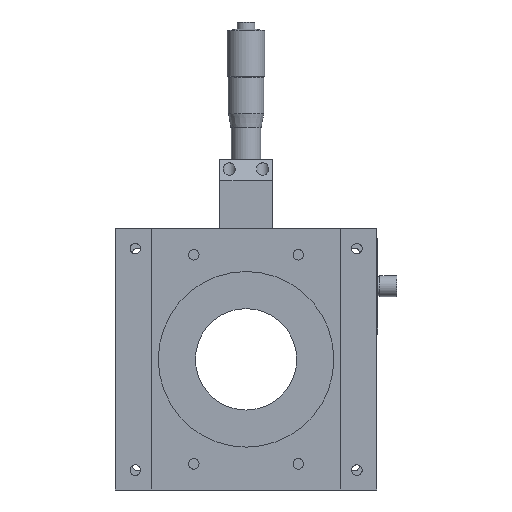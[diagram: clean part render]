
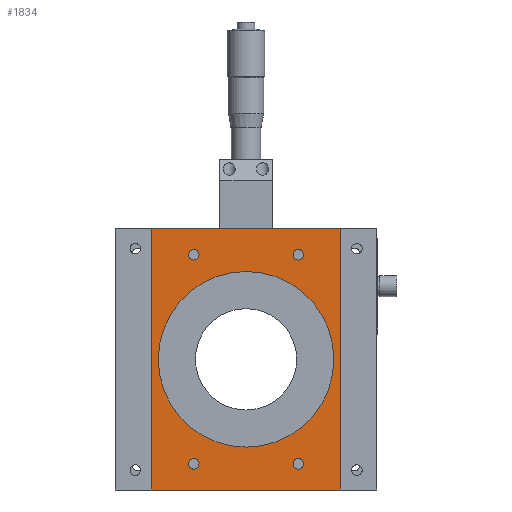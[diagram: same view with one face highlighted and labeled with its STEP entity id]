
A CAD part, front view. The second image highlights one B-rep face of the part: STEP entity #1834.
In plain terms, the highlighted planar face has unit normal (0, -1, 0).
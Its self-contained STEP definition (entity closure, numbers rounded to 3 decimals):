
#23 = FACE_BOUND ( 'NONE', #1678, .T. ) ;
#252 = EDGE_CURVE ( 'NONE', #449, #449, #3304, .T. ) ;
#274 = CARTESIAN_POINT ( 'NONE',  ( -25., 0.5, 52.5 ) ) ;
#449 = VERTEX_POINT ( 'NONE', #274 ) ;
#469 = DIRECTION ( 'NONE',  ( 0., 0., 1. ) ) ;
#482 = CARTESIAN_POINT ( 'NONE',  ( 45., 0.5, -62.5 ) ) ;
#489 = DIRECTION ( 'NONE',  ( 0., -1., 0. ) ) ;
#662 = CARTESIAN_POINT ( 'NONE',  ( -45., 0.5, -62.5 ) ) ;
#716 = LINE ( 'NONE', #6433, #1905 ) ;
#728 = EDGE_LOOP ( 'NONE', ( #6282 ) ) ;
#827 = CARTESIAN_POINT ( 'NONE',  ( 25., 0.5, -47.5 ) ) ;
#837 = DIRECTION ( 'NONE',  ( 0., -1., 0. ) ) ;
#850 = VERTEX_POINT ( 'NONE', #2334 ) ;
#989 = LINE ( 'NONE', #4214, #3529 ) ;
#997 = ORIENTED_EDGE ( 'NONE', *, *, #4231, .F. ) ;
#1005 = ORIENTED_EDGE ( 'NONE', *, *, #3285, .F. ) ;
#1023 = PLANE ( 'NONE',  #4602 ) ;
#1082 = DIRECTION ( 'NONE',  ( 0., 1., 0. ) ) ;
#1118 = DIRECTION ( 'NONE',  ( 0., 0., 1. ) ) ;
#1236 = DIRECTION ( 'NONE',  ( 0., 0., 1. ) ) ;
#1265 = ORIENTED_EDGE ( 'NONE', *, *, #5301, .F. ) ;
#1356 = DIRECTION ( 'NONE',  ( -1., 0., 0. ) ) ;
#1367 = FACE_BOUND ( 'NONE', #5153, .T. ) ;
#1532 = FACE_BOUND ( 'NONE', #2989, .T. ) ;
#1678 = EDGE_LOOP ( 'NONE', ( #997 ) ) ;
#1686 = DIRECTION ( 'NONE',  ( 0., -1., 0. ) ) ;
#1806 = VERTEX_POINT ( 'NONE', #482 ) ;
#1834 = ADVANCED_FACE ( 'NONE', ( #1532, #23, #5284, #3919, #1367, #4235 ), #1023, .F. ) ;
#1905 = VECTOR ( 'NONE', #1356, 1000. ) ;
#2066 = CARTESIAN_POINT ( 'NONE',  ( 0., 0.5, 0. ) ) ;
#2102 = EDGE_CURVE ( 'NONE', #5423, #850, #4615, .T. ) ;
#2300 = CIRCLE ( 'NONE', #5590, 42. ) ;
#2334 = CARTESIAN_POINT ( 'NONE',  ( -45., 0.5, 62.5 ) ) ;
#2696 = EDGE_CURVE ( 'NONE', #3794, #3794, #2300, .T. ) ;
#2754 = CARTESIAN_POINT ( 'NONE',  ( 25., 0.5, 52.5 ) ) ;
#2767 = ORIENTED_EDGE ( 'NONE', *, *, #5004, .T. ) ;
#2839 = CIRCLE ( 'NONE', #6305, 2.5 ) ;
#2890 = EDGE_CURVE ( 'NONE', #1806, #3172, #989, .T. ) ;
#2956 = VECTOR ( 'NONE', #3596, 1000. ) ;
#2989 = EDGE_LOOP ( 'NONE', ( #6284 ) ) ;
#2999 = ORIENTED_EDGE ( 'NONE', *, *, #2696, .F. ) ;
#3172 = VERTEX_POINT ( 'NONE', #6098 ) ;
#3191 = DIRECTION ( 'NONE',  ( 0., 0., 1. ) ) ;
#3221 = CARTESIAN_POINT ( 'NONE',  ( 0., 0.5, 42. ) ) ;
#3285 = EDGE_CURVE ( 'NONE', #1806, #5423, #5520, .T. ) ;
#3304 = CIRCLE ( 'NONE', #5559, 2.5 ) ;
#3465 = EDGE_CURVE ( 'NONE', #4343, #4343, #3525, .T. ) ;
#3522 = DIRECTION ( 'NONE',  ( 0., -1., 0. ) ) ;
#3525 = CIRCLE ( 'NONE', #3861, 2.5 ) ;
#3529 = VECTOR ( 'NONE', #3191, 1000. ) ;
#3536 = CARTESIAN_POINT ( 'NONE',  ( 25., 0.5, -50. ) ) ;
#3551 = CARTESIAN_POINT ( 'NONE',  ( -45., 0.5, -62.5 ) ) ;
#3596 = DIRECTION ( 'NONE',  ( -1., 0., 0. ) ) ;
#3618 = DIRECTION ( 'NONE',  ( 0., 0., 1. ) ) ;
#3753 = EDGE_LOOP ( 'NONE', ( #2767, #3884, #1005, #4171 ) ) ;
#3794 = VERTEX_POINT ( 'NONE', #3221 ) ;
#3861 = AXIS2_PLACEMENT_3D ( 'NONE', #6586, #3522, #469 ) ;
#3878 = CARTESIAN_POINT ( 'NONE',  ( -25., 0.5, -50. ) ) ;
#3884 = ORIENTED_EDGE ( 'NONE', *, *, #2102, .F. ) ;
#3919 = FACE_BOUND ( 'NONE', #6066, .T. ) ;
#4040 = DIRECTION ( 'NONE',  ( 0., 0., 1. ) ) ;
#4171 = ORIENTED_EDGE ( 'NONE', *, *, #2890, .T. ) ;
#4214 = CARTESIAN_POINT ( 'NONE',  ( 45., 0.5, -62.5 ) ) ;
#4231 = EDGE_CURVE ( 'NONE', #6280, #6280, #5993, .T. ) ;
#4235 = FACE_BOUND ( 'NONE', #728, .T. ) ;
#4343 = VERTEX_POINT ( 'NONE', #2754 ) ;
#4387 = DIRECTION ( 'NONE',  ( 0., 0., 1. ) ) ;
#4451 = VECTOR ( 'NONE', #3618, 1000. ) ;
#4602 = AXIS2_PLACEMENT_3D ( 'NONE', #662, #1082, #1118 ) ;
#4615 = LINE ( 'NONE', #5164, #4451 ) ;
#5004 = EDGE_CURVE ( 'NONE', #3172, #850, #716, .T. ) ;
#5121 = CARTESIAN_POINT ( 'NONE',  ( -45., 0.5, -62.5 ) ) ;
#5153 = EDGE_LOOP ( 'NONE', ( #1265 ) ) ;
#5164 = CARTESIAN_POINT ( 'NONE',  ( -45., 0.5, -62.5 ) ) ;
#5284 = FACE_OUTER_BOUND ( 'NONE', #3753, .T. ) ;
#5301 = EDGE_CURVE ( 'NONE', #6521, #6521, #2839, .T. ) ;
#5347 = CARTESIAN_POINT ( 'NONE',  ( -25., 0.5, -47.5 ) ) ;
#5423 = VERTEX_POINT ( 'NONE', #5121 ) ;
#5441 = DIRECTION ( 'NONE',  ( 0., 0., 1. ) ) ;
#5520 = LINE ( 'NONE', #3551, #2956 ) ;
#5559 = AXIS2_PLACEMENT_3D ( 'NONE', #5884, #5833, #5441 ) ;
#5590 = AXIS2_PLACEMENT_3D ( 'NONE', #2066, #1686, #1236 ) ;
#5833 = DIRECTION ( 'NONE',  ( 0., -1., 0. ) ) ;
#5884 = CARTESIAN_POINT ( 'NONE',  ( -25., 0.5, 50. ) ) ;
#5993 = CIRCLE ( 'NONE', #6506, 2.5 ) ;
#6066 = EDGE_LOOP ( 'NONE', ( #2999 ) ) ;
#6098 = CARTESIAN_POINT ( 'NONE',  ( 45., 0.5, 62.5 ) ) ;
#6280 = VERTEX_POINT ( 'NONE', #5347 ) ;
#6282 = ORIENTED_EDGE ( 'NONE', *, *, #252, .F. ) ;
#6284 = ORIENTED_EDGE ( 'NONE', *, *, #3465, .F. ) ;
#6305 = AXIS2_PLACEMENT_3D ( 'NONE', #3536, #489, #4040 ) ;
#6433 = CARTESIAN_POINT ( 'NONE',  ( -45., 0.5, 62.5 ) ) ;
#6506 = AXIS2_PLACEMENT_3D ( 'NONE', #3878, #837, #4387 ) ;
#6521 = VERTEX_POINT ( 'NONE', #827 ) ;
#6586 = CARTESIAN_POINT ( 'NONE',  ( 25., 0.5, 50. ) ) ;
